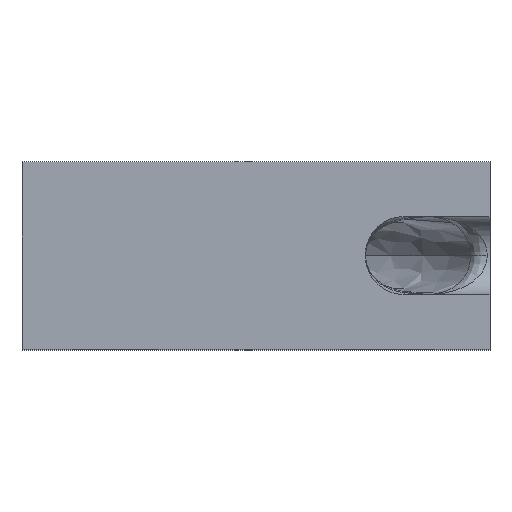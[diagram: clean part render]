
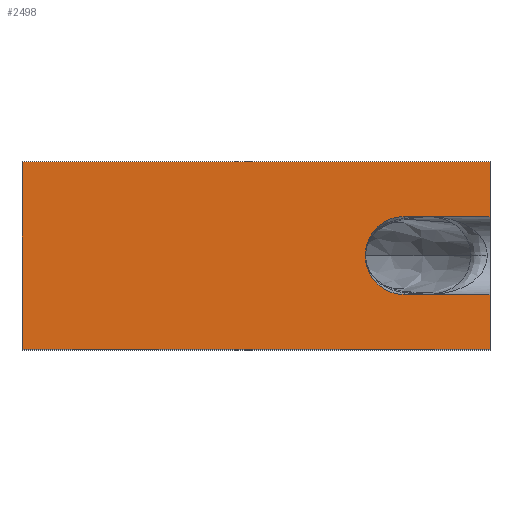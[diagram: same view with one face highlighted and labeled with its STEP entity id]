
A CAD part, top view. The second image highlights one B-rep face of the part: STEP entity #2498.
In plain terms, the highlighted planar face has unit normal (0, 0, 1).
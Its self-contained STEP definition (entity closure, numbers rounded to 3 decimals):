
#131=DIRECTION('',(-1.,0.,0.));
#132=VECTOR('',#131,2.75);
#133=CARTESIAN_POINT('',(13.3,-1.25,2.));
#134=LINE('',#133,#132);
#207=DIRECTION('',(1.,0.,0.));
#208=VECTOR('',#207,2.75);
#209=CARTESIAN_POINT('',(10.55,1.25,2.));
#210=LINE('',#209,#208);
#211=CARTESIAN_POINT('',(10.55,0.,2.));
#212=DIRECTION('',(0.,0.,1.));
#213=DIRECTION('',(-1.,0.,0.));
#214=AXIS2_PLACEMENT_3D('',#211,#212,#213);
#216=DIRECTION('',(0.,-1.,0.));
#217=VECTOR('',#216,1.75);
#218=CARTESIAN_POINT('',(13.3,-1.25,2.));
#219=LINE('',#218,#217);
#220=DIRECTION('',(-1.,0.,0.));
#221=VECTOR('',#220,15.);
#222=CARTESIAN_POINT('',(13.3,-3.,2.));
#223=LINE('',#222,#221);
#224=DIRECTION('',(0.,1.,0.));
#225=VECTOR('',#224,6.);
#226=CARTESIAN_POINT('',(-1.7,-3.,2.));
#227=LINE('',#226,#225);
#228=DIRECTION('',(1.,0.,0.));
#229=VECTOR('',#228,15.);
#230=CARTESIAN_POINT('',(-1.7,3.,2.));
#231=LINE('',#230,#229);
#232=DIRECTION('',(0.,-1.,0.));
#233=VECTOR('',#232,1.75);
#234=CARTESIAN_POINT('',(13.3,3.,2.));
#235=LINE('',#234,#233);
#236=CARTESIAN_POINT('',(10.55,0.,2.));
#237=DIRECTION('',(0.,0.,1.));
#238=DIRECTION('',(0.,1.,0.));
#239=AXIS2_PLACEMENT_3D('',#236,#237,#238);
#1982=CARTESIAN_POINT('',(13.3,-1.25,2.));
#1983=CARTESIAN_POINT('',(13.3,1.25,2.));
#1984=VERTEX_POINT('',#1982);
#1985=VERTEX_POINT('',#1983);
#1986=CARTESIAN_POINT('',(13.3,3.,2.));
#1987=VERTEX_POINT('',#1986);
#1988=CARTESIAN_POINT('',(13.3,-3.,2.));
#1989=VERTEX_POINT('',#1988);
#1990=CARTESIAN_POINT('',(10.55,-1.25,2.));
#1991=VERTEX_POINT('',#1990);
#1995=CARTESIAN_POINT('',(10.55,1.25,2.));
#1996=VERTEX_POINT('',#1995);
#1997=CARTESIAN_POINT('',(-1.7,-3.,2.));
#1998=VERTEX_POINT('',#1997);
#1999=CARTESIAN_POINT('',(-1.7,3.,2.));
#2000=VERTEX_POINT('',#1999);
#2173=CARTESIAN_POINT('',(9.3,0.,2.));
#2174=VERTEX_POINT('',#2173);
#2477=CARTESIAN_POINT('',(5.8,0.,2.));
#2478=DIRECTION('',(0.,0.,1.));
#2479=DIRECTION('',(1.,0.,0.));
#2480=AXIS2_PLACEMENT_3D('',#2477,#2478,#2479);
#2481=PLANE('',#2480);
#2483=ORIENTED_EDGE('',*,*,#2482,.T.);
#2484=ORIENTED_EDGE('',*,*,#2461,.F.);
#2485=ORIENTED_EDGE('',*,*,#2451,.T.);
#2487=ORIENTED_EDGE('',*,*,#2486,.T.);
#2489=ORIENTED_EDGE('',*,*,#2488,.T.);
#2491=ORIENTED_EDGE('',*,*,#2490,.T.);
#2492=ORIENTED_EDGE('',*,*,#2444,.T.);
#2493=ORIENTED_EDGE('',*,*,#2471,.F.);
#2495=ORIENTED_EDGE('',*,*,#2494,.T.);
#2496=EDGE_LOOP('',(#2483,#2484,#2485,#2487,#2489,#2491,#2492,#2493,#2495));
#2497=FACE_OUTER_BOUND('',#2496,.F.);
#2498=ADVANCED_FACE('',(#2497),#2481,.T.);
#215=CIRCLE('',#214,1.25);
#240=CIRCLE('',#239,1.25);
#2444=EDGE_CURVE('',#1987,#1985,#235,.T.);
#2451=EDGE_CURVE('',#1984,#1989,#219,.T.);
#2461=EDGE_CURVE('',#1984,#1991,#134,.T.);
#2471=EDGE_CURVE('',#1996,#1985,#210,.T.);
#2482=EDGE_CURVE('',#2174,#1991,#215,.T.);
#2486=EDGE_CURVE('',#1989,#1998,#223,.T.);
#2488=EDGE_CURVE('',#1998,#2000,#227,.T.);
#2490=EDGE_CURVE('',#2000,#1987,#231,.T.);
#2494=EDGE_CURVE('',#1996,#2174,#240,.T.);
